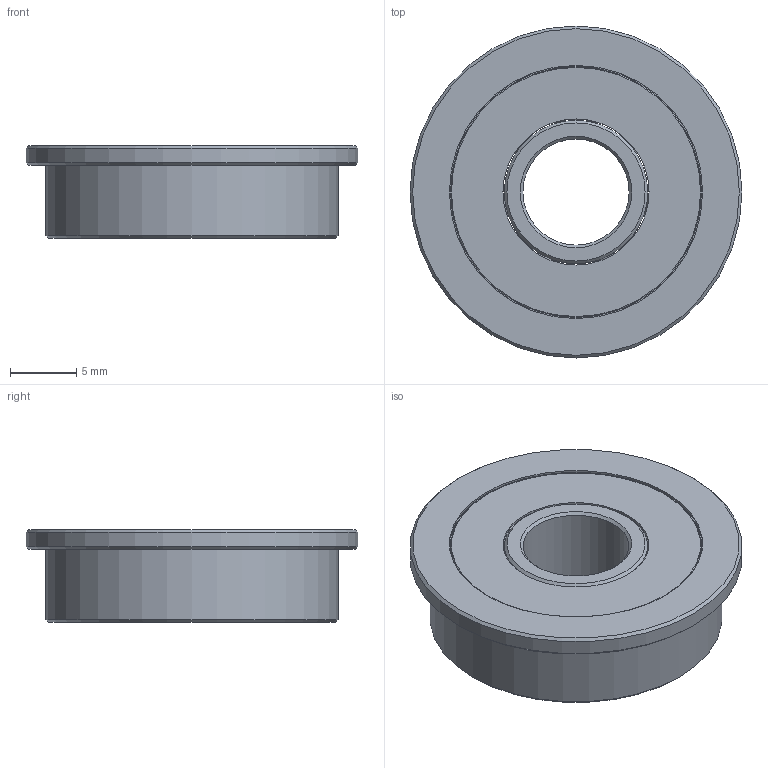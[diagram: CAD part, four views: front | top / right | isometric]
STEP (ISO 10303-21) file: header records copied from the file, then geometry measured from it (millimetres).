
FILE_DESCRIPTION(('STEP AP214'), '1');
FILE_NAME('F608Z-Ïîäøèïíèê', '', ('UNSPECIFIED'), ('UNSPECIFIED'), 'ASCON STEP Converter 1.6', 'ASCON Math Kernel', '');
FILE_SCHEMA(('AUTOMOTIVE_DESIGN { 1 0 10303 214 3 1 1}'));
Length unit declared in the file: millimetre
Bounding box: 25 x 25 x 7 mm (x, y, z)
Volume: 1457.6 mm3; surface area: 2975 mm2
Topology: 11 solids, 11 shells, 45 faces, 122 edges, 90 vertices
Faces by surface type: plane 13, cone 12, cylinder 11, sphere 7, torus 2
Full cylindrical faces by diameter (mm): 8 x1, 10.8 x2, 11 x2, 19.07 x4, 22 x1, 25 x1
Entity records: 1694 total; most frequent: DIRECTION 244, CARTESIAN_POINT 198, ORIENTED_EDGE 152, AXIS2_PLACEMENT_3D 122, FACE_BOUND 76, EDGE_LOOP 76, EDGE_CURVE 76, VERTEX_POINT 76
